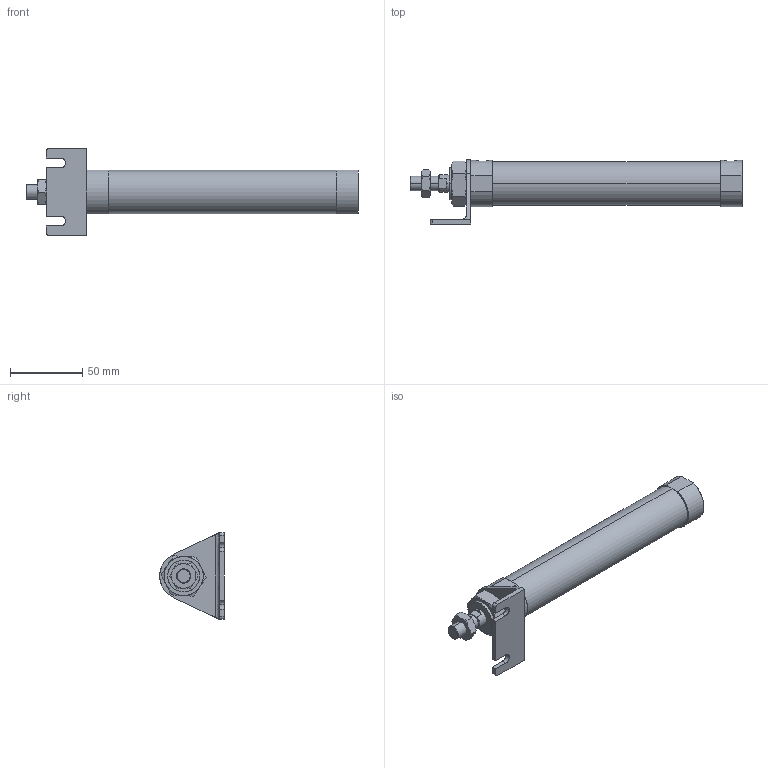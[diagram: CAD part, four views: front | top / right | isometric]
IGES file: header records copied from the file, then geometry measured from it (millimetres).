
Start section: SolidWorks IGES file using analytic representation for surfaces
Global section: file name: C:\Users\Toshiba\Desktop\JGND2-25-125-L.IGS; native system: SolidWorks 2014; preprocessor: SolidWorks 2014; author: Toshiba; date: 160804.104114; units: millimetre
Bounding box: 229 x 44.5 x 60 mm (x, y, z)
Surface area: 32195.5 mm2 (no closed solid volume)
Topology: 0 solids, 0 shells, 115 faces, 1928 edges, 1924 vertices
Faces by surface type: bspline 74, revolution 41
